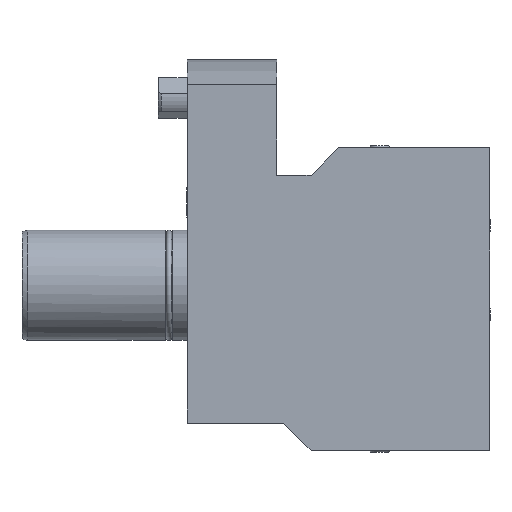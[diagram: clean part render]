
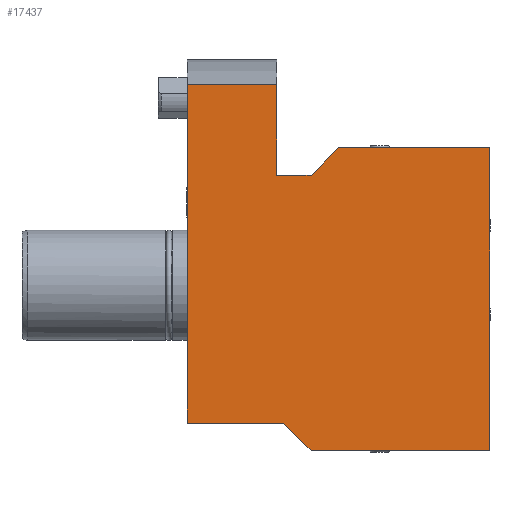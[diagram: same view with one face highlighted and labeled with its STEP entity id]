
A CAD part, front view. The second image highlights one B-rep face of the part: STEP entity #17437.
In plain terms, the highlighted planar face has unit normal (0, -1, 0).
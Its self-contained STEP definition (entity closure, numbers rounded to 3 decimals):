
#8132=ORIENTED_EDGE('',*,*,#10651,.F.);
#8133=ORIENTED_EDGE('',*,*,#10652,.T.);
#8134=ORIENTED_EDGE('',*,*,#10653,.F.);
#8135=ORIENTED_EDGE('',*,*,#10654,.F.);
#8136=ORIENTED_EDGE('',*,*,#10643,.T.);
#8137=ORIENTED_EDGE('',*,*,#10649,.T.);
#8138=ORIENTED_EDGE('',*,*,#10531,.F.);
#8139=ORIENTED_EDGE('',*,*,#10655,.F.);
#8140=ORIENTED_EDGE('',*,*,#10656,.F.);
#8141=ORIENTED_EDGE('',*,*,#10657,.F.);
#9323=VECTOR('',#11906,1.);
#9400=VECTOR('',#11991,1.);
#9404=VECTOR('',#12001,1.);
#9406=VECTOR('',#12005,1.);
#9407=VECTOR('',#12006,1.);
#9408=VECTOR('',#12007,1.);
#9409=VECTOR('',#12008,1.);
#9410=VECTOR('',#12009,1.);
#9411=VECTOR('',#12010,1.);
#9412=VECTOR('',#12011,1.);
#9699=LINE('',#13011,#9323);
#9776=LINE('',#13453,#9400);
#9780=LINE('',#13462,#9404);
#9782=LINE('',#13467,#9406);
#9783=LINE('',#13469,#9407);
#9784=LINE('',#13471,#9408);
#9785=LINE('',#13472,#9409);
#9786=LINE('',#13474,#9410);
#9787=LINE('',#13476,#9411);
#9788=LINE('',#13477,#9412);
#10071=VERTEX_POINT('',#13008);
#10072=VERTEX_POINT('',#13010);
#10182=VERTEX_POINT('',#13450);
#10183=VERTEX_POINT('',#13452);
#10186=VERTEX_POINT('',#13465);
#10187=VERTEX_POINT('',#13466);
#10188=VERTEX_POINT('',#13468);
#10189=VERTEX_POINT('',#13470);
#10190=VERTEX_POINT('',#13473);
#10191=VERTEX_POINT('',#13475);
#10531=EDGE_CURVE('',#10071,#10072,#9699,.T.);
#10643=EDGE_CURVE('',#10183,#10182,#9776,.T.);
#10649=EDGE_CURVE('',#10182,#10072,#9780,.T.);
#10651=EDGE_CURVE('',#10186,#10187,#9782,.T.);
#10652=EDGE_CURVE('',#10186,#10188,#9783,.T.);
#10653=EDGE_CURVE('',#10189,#10188,#9784,.T.);
#10654=EDGE_CURVE('',#10183,#10189,#9785,.T.);
#10655=EDGE_CURVE('',#10190,#10071,#9786,.T.);
#10656=EDGE_CURVE('',#10191,#10190,#9787,.T.);
#10657=EDGE_CURVE('',#10187,#10191,#9788,.T.);
#11201=EDGE_LOOP('',(#8132,#8133,#8134,#8135,#8136,#8137,#8138,#8139,#8140,
#8141));
#11548=FACE_BOUND('',#11201,.T.);
#11906=DIRECTION('',(55.,0.,0.));
#11991=DIRECTION('',(65.,0.,0.));
#12001=DIRECTION('',(0.,0.,110.));
#12003=DIRECTION('',(0.,-1.,0.));
#12004=DIRECTION('',(-1.,0.,0.));
#12005=DIRECTION('',(32.5,0.,0.));
#12006=DIRECTION('',(0.,0.,-122.923));
#12007=DIRECTION('',(-35.,0.,0.));
#12008=DIRECTION('',(-10.,0.,10.));
#12009=DIRECTION('',(10.,0.,10.));
#12010=DIRECTION('',(12.5,0.,0.));
#12011=DIRECTION('',(0.,0.,-32.923));
#13008=CARTESIAN_POINT('',(55.,-37.5,50.));
#13010=CARTESIAN_POINT('',(110.,-37.5,50.));
#13011=CARTESIAN_POINT('',(55.,-37.5,50.));
#13450=CARTESIAN_POINT('',(110.,-37.5,-60.));
#13452=CARTESIAN_POINT('',(45.,-37.5,-60.));
#13453=CARTESIAN_POINT('',(45.,-37.5,-60.));
#13462=CARTESIAN_POINT('',(110.,-37.5,-60.));
#13464=CARTESIAN_POINT('',(0.,-37.5,72.923));
#13465=CARTESIAN_POINT('',(0.,-37.5,72.923));
#13466=CARTESIAN_POINT('',(32.5,-37.5,72.923));
#13467=CARTESIAN_POINT('',(0.,-37.5,72.923));
#13468=CARTESIAN_POINT('',(0.,-37.5,-50.));
#13469=CARTESIAN_POINT('',(0.,-37.5,72.923));
#13470=CARTESIAN_POINT('',(35.,-37.5,-50.));
#13471=CARTESIAN_POINT('',(35.,-37.5,-50.));
#13472=CARTESIAN_POINT('',(45.,-37.5,-60.));
#13473=CARTESIAN_POINT('',(45.,-37.5,40.));
#13474=CARTESIAN_POINT('',(45.,-37.5,40.));
#13475=CARTESIAN_POINT('',(32.5,-37.5,40.));
#13476=CARTESIAN_POINT('',(32.5,-37.5,40.));
#13477=CARTESIAN_POINT('',(32.5,-37.5,72.923));
#16888=AXIS2_PLACEMENT_3D('',#13464,#12003,#12004);
#17240=PLANE('',#16888);
#17437=ADVANCED_FACE('',(#11548),#17240,.T.);
